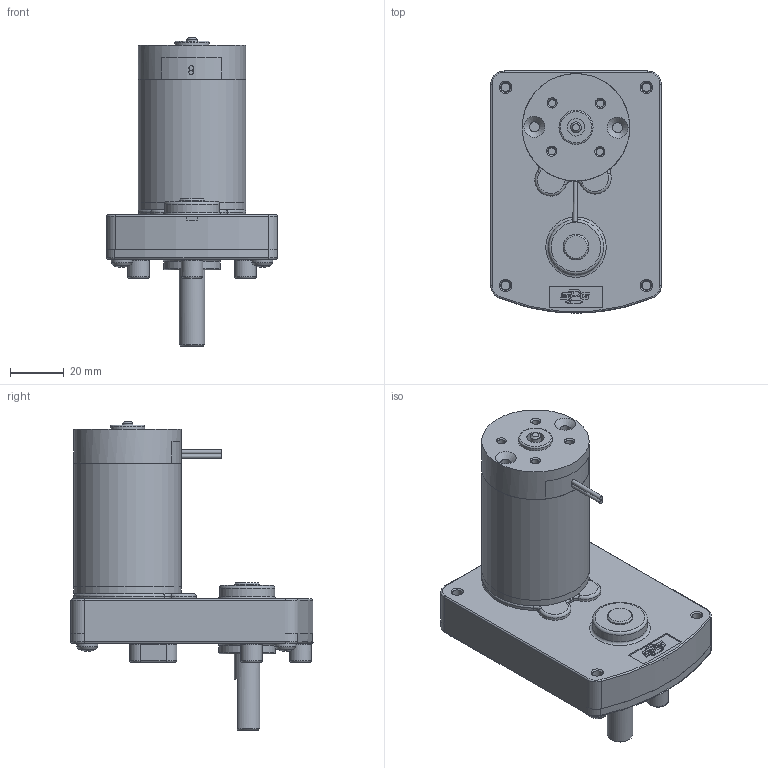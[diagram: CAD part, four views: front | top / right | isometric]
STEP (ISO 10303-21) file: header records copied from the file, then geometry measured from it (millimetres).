
FILE_DESCRIPTION(/* description */ (''),/* implementation_level */ '2;1');
FILE_NAME(/* name */ 'C:\Users\byjeong\Desktop\3D도면\SR44BL.stp',/* time_stamp */ '2015-03-31T14:59:35+09:00',/* author */ ('byjeong'),/* organization */ (''),/* preprocessor_version */ 'ST-DEVELOPER v15.6',/* originating_system */ 'Autodesk Inventor 2015',/* authorisation */ '');
FILE_SCHEMA (('AUTOMOTIVE_DESIGN { 1 0 10303 214 3 1 1 }'));
Length unit declared in the file: millimetre
Products named in the file (9): SR BOX ASSY; RM4TYPE_FRONT_HOUSING_; RM44TYPE_SHAFT; RM4TYPE_PIPE_HOUSING_pi40XL45.9; RM4TYPE_BRUSH_BRAKET_LEAD; RM4TYPE_REAR_HOUSING; REAR_HOUSING__ASS'Y_LEAD; RM44ㅁBL; 조립품2
Bounding box: 63.5 x 90.14 x 114.87 mm (x, y, z)
Volume: 69427.9 mm3; surface area: 57468 mm2
Topology: 9 solids, 18 shells, 547 faces, 1313 edges, 835 vertices
Faces by surface type: plane 233, cylinder 153, cone 96, torus 60, sphere 4, bspline 1
Full cylindrical faces by diameter (mm): 1.6 x2, 2.5 x1, 2.7 x4, 2.8 x4, 3 x3, 3.4 x7, 3.571 x4, 3.6 x6, 3.7 x2, 3.969 x1, 4 x8, 4.4 x6, 4.45 x1, 5 x1, 6.5 x1, 6.65 x1, 8 x3, 9.525 x2, 9.528 x1, 9.565 x2, 12.7 x3, 14.3 x3, 16.6 x1, 17.6 x1, 20.5 x1, 21 x1, 23 x1, 36.5 x1, 40 x3
Entity records: 15863 total; most frequent: CARTESIAN_POINT 3610, DIRECTION 2640, ORIENTED_EDGE 2252, EDGE_CURVE 1121, AXIS2_PLACEMENT_3D 1096, VERTEX_POINT 796, EDGE_LOOP 778, FACE_OUTER_BOUND 547
